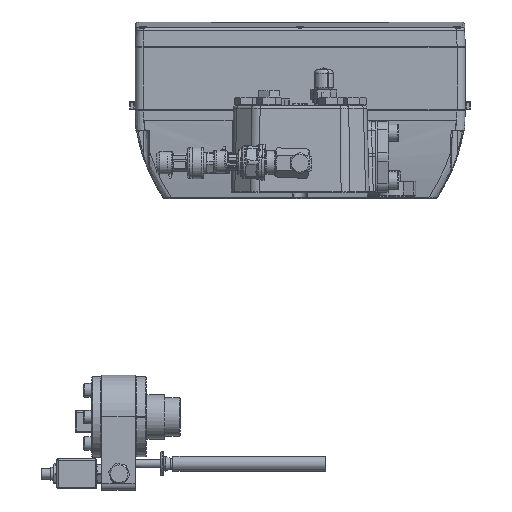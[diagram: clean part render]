
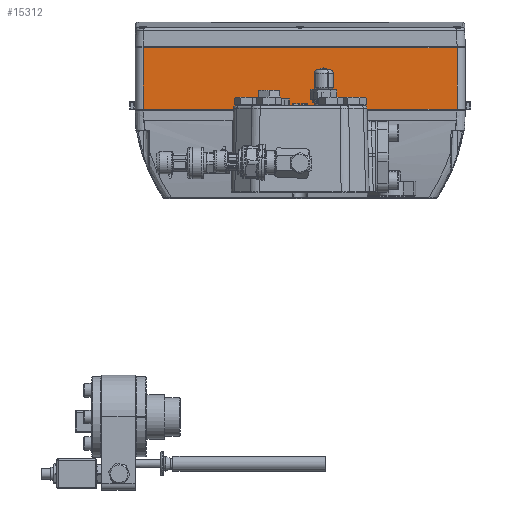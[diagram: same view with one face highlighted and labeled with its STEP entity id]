
A CAD part, left-side view. The second image highlights one B-rep face of the part: STEP entity #15312.
In plain terms, the highlighted planar face has unit normal (-1, 0, 0) as drawn and (1, 0, 0) by its records, which use the part's own axes.
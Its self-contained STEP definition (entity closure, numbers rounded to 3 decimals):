
#9190=LINE('',#72711,#12026);
#9290=LINE('',#73341,#12126);
#9291=LINE('',#73344,#12127);
#9292=LINE('',#73345,#12128);
#12026=VECTOR('',#56134,1.);
#12126=VECTOR('',#56418,1.);
#12127=VECTOR('',#56419,1.);
#12128=VECTOR('',#56420,1.);
#15312=ADVANCED_FACE('',(#19052),#17663,.T.);
#17663=PLANE('',#50140);
#19052=FACE_OUTER_BOUND('',#21613,.T.);
#21613=EDGE_LOOP('',(#27679,#27680,#27681,#27682));
#27679=ORIENTED_EDGE('',*,*,#43031,.F.);
#27680=ORIENTED_EDGE('',*,*,#43032,.T.);
#27681=ORIENTED_EDGE('',*,*,#42835,.T.);
#27682=ORIENTED_EDGE('',*,*,#43033,.T.);
#37956=VERTEX_POINT('',#72710);
#37957=VERTEX_POINT('',#72712);
#38135=VERTEX_POINT('',#73342);
#38136=VERTEX_POINT('',#73343);
#42835=EDGE_CURVE('',#37957,#37956,#9190,.T.);
#43031=EDGE_CURVE('',#38135,#38136,#9290,.T.);
#43032=EDGE_CURVE('',#38135,#37957,#9291,.T.);
#43033=EDGE_CURVE('',#37956,#38136,#9292,.T.);
#50140=AXIS2_PLACEMENT_3D('',#73346,#56421,#56422);
#56134=DIRECTION('',(0.,1.,0.));
#56418=DIRECTION('',(0.,1.,0.));
#56419=DIRECTION('',(0.,0.,-1.));
#56420=DIRECTION('',(0.,0.,1.));
#56421=DIRECTION('',(1.,0.,0.));
#56422=DIRECTION('',(0.,0.,1.));
#72710=CARTESIAN_POINT('',(73.,116.,66.));
#72711=CARTESIAN_POINT('',(73.,0.,66.));
#72712=CARTESIAN_POINT('',(73.,-116.,66.));
#73341=CARTESIAN_POINT('',(73.,0.,111.5));
#73342=CARTESIAN_POINT('',(73.,-116.,111.5));
#73343=CARTESIAN_POINT('',(73.,116.,111.5));
#73344=CARTESIAN_POINT('',(73.,-116.,114.));
#73345=CARTESIAN_POINT('',(73.,116.,114.));
#73346=CARTESIAN_POINT('',(73.,0.,114.));
